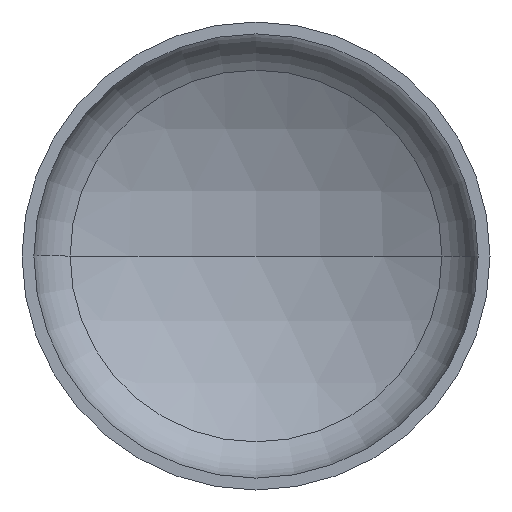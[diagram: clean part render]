
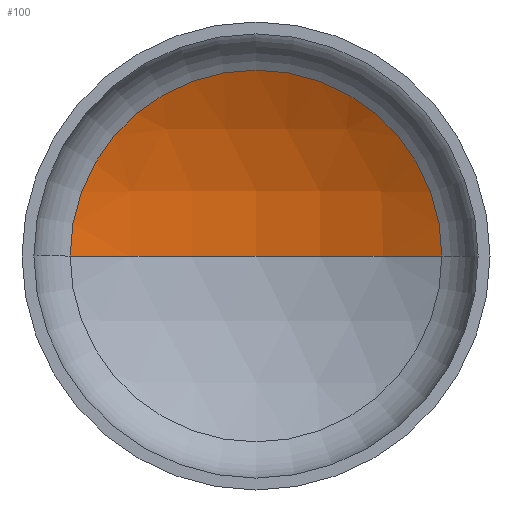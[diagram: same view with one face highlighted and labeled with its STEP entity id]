
A CAD part, front view. The second image highlights one B-rep face of the part: STEP entity #100.
In plain terms, the highlighted spherical face has radius 2080 mm.
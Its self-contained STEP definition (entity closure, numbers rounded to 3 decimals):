
#4 = DIRECTION ( 'NONE',  ( -1., 0., 0. ) ) ;
#14 = CARTESIAN_POINT ( 'NONE',  ( 0., 741.63, 0. ) ) ;
#29 = AXIS2_PLACEMENT_3D ( 'NONE', #235, #231, #229 ) ;
#32 = AXIS2_PLACEMENT_3D ( 'NONE', #208, #198, #4 ) ;
#33 = AXIS2_PLACEMENT_3D ( 'NONE', #182, #190, #192 ) ;
#76 = ORIENTED_EDGE ( 'NONE', *, *, #140, .T. ) ;
#100 = ADVANCED_FACE ( 'NONE', ( #389 ), #107, .F. ) ;
#101 = VERTEX_POINT ( 'NONE', #188 ) ;
#107 = SPHERICAL_SURFACE ( 'NONE', #32, 2080. ) ;
#109 = VERTEX_POINT ( 'NONE', #14 ) ;
#125 = ORIENTED_EDGE ( 'NONE', *, *, #168, .T. ) ;
#130 = VERTEX_POINT ( 'NONE', #354 ) ;
#140 = EDGE_CURVE ( 'NONE', #130, #101, #197, .T. ) ;
#166 = CARTESIAN_POINT ( 'NONE',  ( 0., -1338.37, 0. ) ) ;
#168 = EDGE_CURVE ( 'NONE', #109, #130, #207, .T. ) ;
#182 = CARTESIAN_POINT ( 'NONE',  ( 0., 467.231, 0. ) ) ;
#188 = CARTESIAN_POINT ( 'NONE',  ( -1032.571, 467.231, 0. ) ) ;
#190 = DIRECTION ( 'NONE',  ( 0., -1., 0. ) ) ;
#192 = DIRECTION ( 'NONE',  ( 1., 0., 0. ) ) ;
#197 = CIRCLE ( 'NONE', #33, 1032.571 ) ;
#198 = DIRECTION ( 'NONE',  ( 0., 0., -1. ) ) ;
#207 = CIRCLE ( 'NONE', #29, 2080. ) ;
#208 = CARTESIAN_POINT ( 'NONE',  ( 0., -1338.37, 0. ) ) ;
#219 = DIRECTION ( 'NONE',  ( 0., 0., 1. ) ) ;
#229 = DIRECTION ( 'NONE',  ( -1., 0., 0. ) ) ;
#231 = DIRECTION ( 'NONE',  ( 0., 0., -1. ) ) ;
#232 = EDGE_LOOP ( 'NONE', ( #351, #125, #76 ) ) ;
#235 = CARTESIAN_POINT ( 'NONE',  ( 0., -1338.37, 0. ) ) ;
#306 = DIRECTION ( 'NONE',  ( 1., 0., 0. ) ) ;
#344 = EDGE_CURVE ( 'NONE', #109, #101, #355, .T. ) ;
#351 = ORIENTED_EDGE ( 'NONE', *, *, #344, .F. ) ;
#354 = CARTESIAN_POINT ( 'NONE',  ( 1032.571, 467.231, 0. ) ) ;
#355 = CIRCLE ( 'NONE', #392, 2080. ) ;
#389 = FACE_OUTER_BOUND ( 'NONE', #232, .T. ) ;
#392 = AXIS2_PLACEMENT_3D ( 'NONE', #166, #219, #306 ) ;
